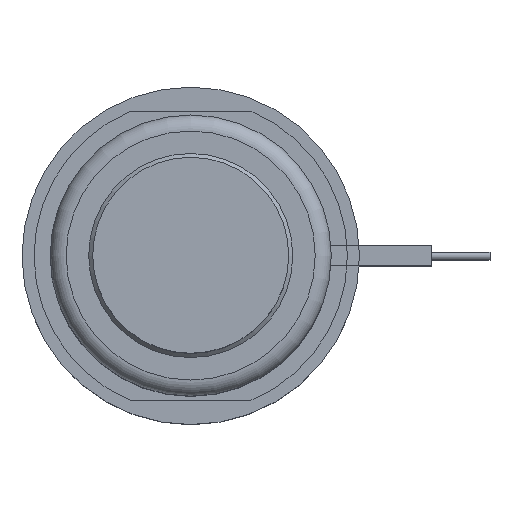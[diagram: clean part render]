
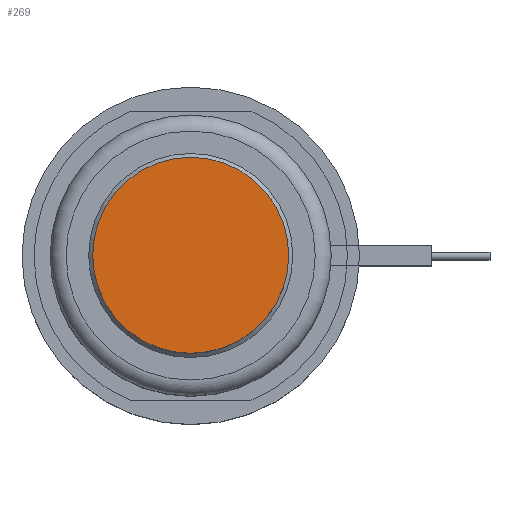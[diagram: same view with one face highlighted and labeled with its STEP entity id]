
A CAD part, top view. The second image highlights one B-rep face of the part: STEP entity #269.
In plain terms, the highlighted planar face has unit normal (0, 0, 1).
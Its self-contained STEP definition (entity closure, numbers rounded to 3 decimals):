
#269=ADVANCED_FACE('',(#404),#359,.F.);
#359=PLANE('',#1271);
#404=FACE_OUTER_BOUND('',#549,.T.);
#549=EDGE_LOOP('',(#689));
#689=ORIENTED_EDGE('',*,*,#1060,.F.);
#954=VERTEX_POINT('',#1818);
#1060=EDGE_CURVE('',#954,#954,#1193,.T.);
#1193=CIRCLE('',#1270,12.2);
#1270=AXIS2_PLACEMENT_3D('',#1817,#1443,#1444);
#1271=AXIS2_PLACEMENT_3D('',#1819,#1445,#1446);
#1443=DIRECTION('',(0.,0.,-1.));
#1444=DIRECTION('',(-1.,0.,0.));
#1445=DIRECTION('',(0.,0.,-1.));
#1446=DIRECTION('',(-1.,0.,0.));
#1817=CARTESIAN_POINT('',(0.,0.,18.));
#1818=CARTESIAN_POINT('',(-12.2,0.,18.));
#1819=CARTESIAN_POINT('',(0.,0.,18.));
